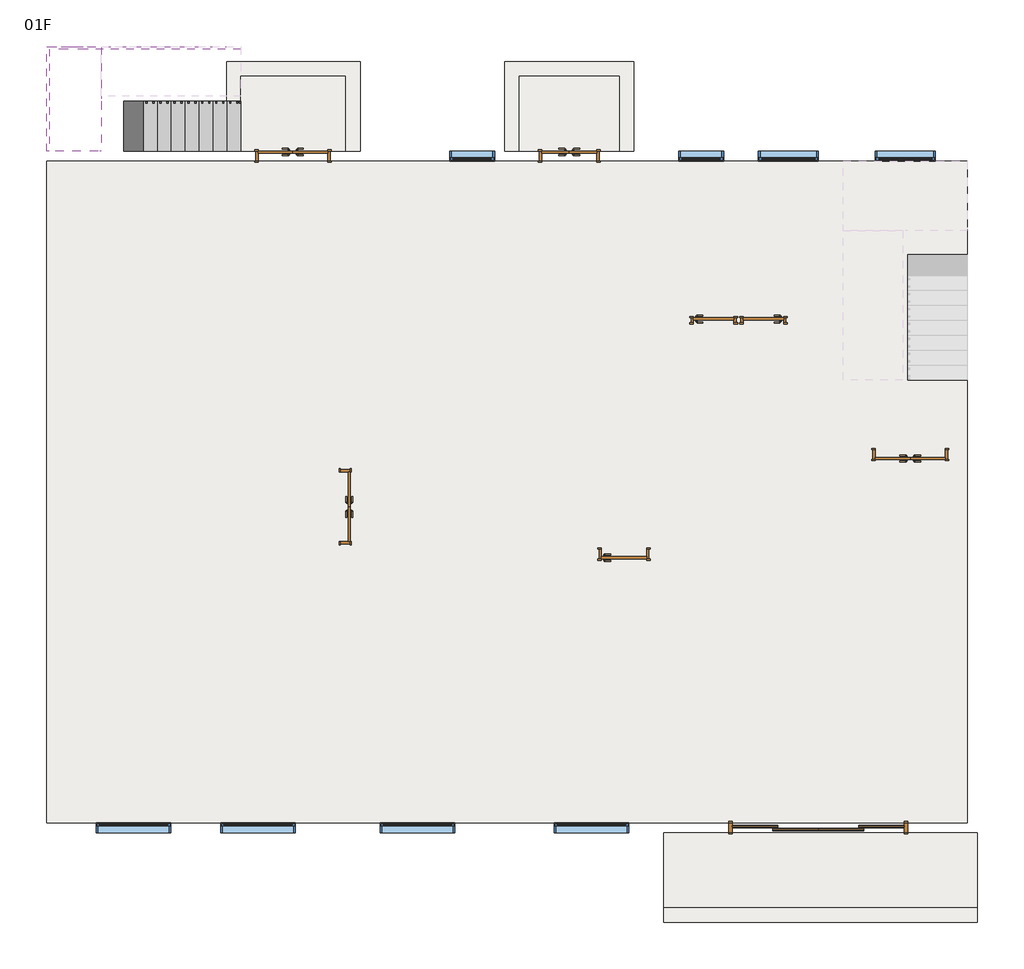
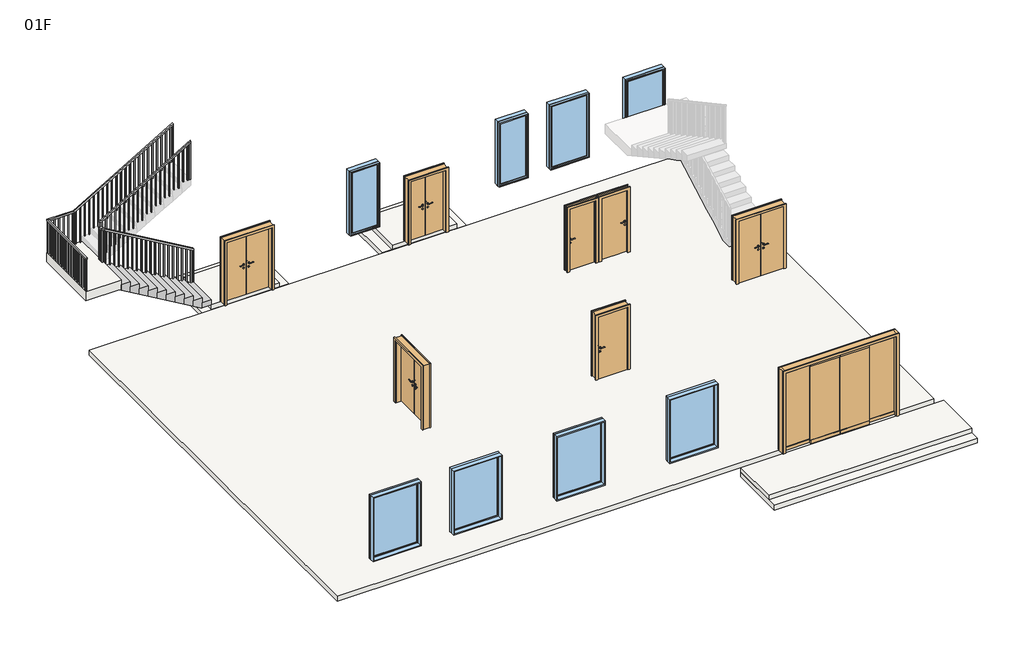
# One storey, part 1 of 2: 8 doors, 8 slabs, 8 windows, 2 railings, 1 stair flight.
"""IFC4 building model written with IfcOpenShell, lengths in millimetres."""

from ifc_helpers import new_model, si_unit, frame, origin, place, context, project, spatial, polyline, outline, extrude, faceted_brep, transform, mapped, element, save
from components import m1_8058bb6d, m2_692f9d9b, m3_ab7da2a0, m4_a67fd2dd, m4_12d08f6f, m5_627b48e9, c1_fb661159, c3_54e22efd, c5_e6b0c997

model = new_model("IFC4")

# Units and contexts
model_context = context("Model", 3, world=origin())
ifc_project = project(units=[si_unit("LENGTHUNIT", "METRE", prefix="MILLI")], contexts=[model_context])

# Site, building, storey
site = spatial("IfcSite", under=ifc_project)
building = spatial("IfcBuilding", under=site)
storey = spatial("IfcBuildingStorey", under=building, Name="01F", Elevation=0.0)

# Doors
placement = place(None, origin())
m1_shape = m1_8058bb6d(model_context)
element("IfcDoor", 1, ObjectType="四扇推拉门 3 : M1", at=placement, inside=storey, context=model_context, shape_type="MappedRepresentation", body=[
    mapped(m1_shape, transform((16550.0, 0.0, 0.0), x_axis=(-1.0, 0.0, 0.0), y_axis=(0.0, -1.0, 0.0), z_axis=(0.0, 0.0, 1.0))),
])
m2_shape = m2_692f9d9b(model_context)
element("IfcDoor", 2, ObjectType="双面嵌板木门 1 : M2", at=placement, inside=storey, context=model_context, shape_type="MappedRepresentation", body=[
    mapped(m2_shape, transform((4950.0, 13500.0, 0.0), x_axis=(1.0, 0.0, 0.0), y_axis=(0.0, 1.0, 0.0), z_axis=(0.0, 0.0, 1.0))),
])
element("IfcDoor", 3, ObjectType="双面嵌板木门 1 : M2", at=placement, inside=storey, context=model_context, shape_type="MappedRepresentation", body=[
    mapped(m2_shape, transform((6000.0, 6450.0, 0.0), x_axis=(0.0, -1.0, 0.0), y_axis=(1.0, 0.0, 0.0), z_axis=(0.0, 0.0, 1.0))),
])
element("IfcDoor", 4, ObjectType="双面嵌板木门 1 : M2", at=placement, inside=storey, context=model_context, shape_type="MappedRepresentation", body=[
    mapped(m2_shape, transform((17350.0, 7500.0, 0.0), x_axis=(-1.0, 0.0, 0.0), y_axis=(0.0, -1.0, 0.0), z_axis=(0.0, 0.0, 1.0))),
])
m3_shape = m3_ab7da2a0(model_context)
element("IfcDoor", 5, ObjectType="单嵌板木门 1 : M3", at=placement, inside=storey, context=model_context, shape_type="MappedRepresentation", body=[
    mapped(m3_shape, transform((11600.0, 5500.0, 0.0), x_axis=(1.0, 0.0, 0.0), y_axis=(0.0, 1.0, 0.0), z_axis=(0.0, 0.0, 1.0))),
])
m4_shape = m4_a67fd2dd(model_context)
element("IfcDoor", 6, ObjectType="单嵌板木门 1 : M4", at=placement, inside=storey, context=model_context, shape_type="MappedRepresentation", body=[
    mapped(m4_shape, transform((13400.0, 10200.0, 0.0), x_axis=(1.0, 0.0, 0.0), y_axis=(0.0, 1.0, 0.0), z_axis=(0.0, 0.0, 1.0))),
])
m4_2_shape = m4_12d08f6f(model_context)
element("IfcDoor", 7, ObjectType="单嵌板木门 1 : M4", at=placement, inside=storey, context=model_context, shape_type="MappedRepresentation", body=[
    mapped(m4_2_shape, transform((14400.0, 10200.0, 0.0), x_axis=(-1.0, 0.0, 0.0), y_axis=(0.0, -1.0, 0.0), z_axis=(0.0, 0.0, 1.0))),
])
m5_shape = m5_627b48e9(model_context)
element("IfcDoor", 8, ObjectType="双面嵌板木门 1 : M5", at=placement, inside=storey, context=model_context, shape_type="MappedRepresentation", body=[
    mapped(m5_shape, transform((10500.0, 13500.0, 0.0), x_axis=(1.0, 0.0, 0.0), y_axis=(0.0, 1.0, 0.0), z_axis=(0.0, 0.0, 1.0))),
])

# Railings
element("IfcRailing", 9, ObjectType="1100mm", at=placement, inside=storey, context=model_context, shape_type="SolidModel", body=[
    faceted_brep([(3900.0, 14549.6, 1263.6363636), (3900.0, 14549.6, 1205.7238957), (3900.0, 14599.6, 1205.7238957), (3900.0, 14599.6, 1263.6363636), (1174.6, 14549.6, 2856.4025974), (1124.6, 14549.6, 2827.7109087), (1124.6, 14599.6, 2827.7109087), (1174.6, 14599.6, 2856.4025974), (1174.6, 14549.6, 2900.0), (1124.6, 14549.6, 2850.0), (1124.6, 14599.6, 2850.0), (1174.6, 14599.6, 2900.0), (1049.6, 14549.6, 2900.0), (1049.6, 14549.6, 2850.0), (1099.6, 14599.6, 2850.0), (1099.6, 14599.6, 2900.0), (1049.6, 14674.6, 2900.0), (1049.6, 14674.6, 2850.0), (1099.6, 14674.6, 2850.0), (1099.6, 14674.6, 2900.0), (1049.6, 14700.4, 2900.0), (1099.6, 14700.4, 2900.0), (1099.6, 14750.4, 2850.0), (1049.6, 14750.4, 2850.0)], [[[0, 1, 2, 3]], [[1, 0, 4, 5]], [[2, 1, 5, 6]], [[3, 2, 6, 7]], [[0, 3, 7, 4]], [[5, 4, 8, 9]], [[6, 5, 9, 10]], [[7, 6, 10, 11]], [[4, 7, 11, 8]], [[9, 8, 12, 13]], [[10, 9, 13, 14]], [[11, 10, 14, 15]], [[8, 11, 15, 12]], [[13, 12, 16, 17]], [[14, 13, 17, 18]], [[15, 14, 18, 19]], [[12, 15, 19, 16]], [[20, 21, 22, 23]], [[17, 16, 20, 23]], [[18, 17, 23, 22]], [[19, 18, 22, 21]], [[16, 19, 21, 20]]]),
    faceted_brep([(1049.6, 14700.4, 2900.0), (1049.6, 14750.4, 2850.0), (1099.6, 14750.4, 2850.0), (1099.6, 14700.4, 2900.0), (1049.6, 14700.4, 3034.1818182), (1099.6, 14700.4, 3005.4901295), (1099.6, 14750.4, 3005.4901295), (1049.6, 14750.4, 3034.1818182)], [[[0, 1, 2, 3]], [[4, 5, 6, 7]], [[1, 0, 4, 7]], [[2, 1, 7, 6]], [[3, 2, 6, 5]], [[0, 3, 5, 4]]]),
    faceted_brep([(1049.6, 14750.4, 3034.1818182), (1099.6, 14750.4, 3005.4901295), (1099.6, 14700.4, 3005.4901295), (1049.6, 14700.4, 3034.1818182), (3900.0, 14750.4, 4700.0), (3900.0, 14700.4, 4700.0), (3900.0, 14700.4, 4642.0875321), (3900.0, 14750.4, 4642.0875321)], [[[0, 1, 2, 3]], [[4, 5, 6, 7]], [[1, 0, 4, 7]], [[2, 1, 7, 6]], [[3, 2, 6, 5]], [[0, 3, 5, 4]]]),
    extrude(outline(polyline([(4579.0290905, 3792.1), (3436.3636364, 3792.1), (3436.3636364, 3817.1), (4593.6394802, 3817.1), (4579.0290905, 3792.1)])), frame((0.0, 14712.9, 0.0), z_axis=(0.0, 1.0, 0.0), x_axis=(0.0, 0.0, 1.0)), (0.0, 0.0, 1.0), 25.0),
    extrude(outline(polyline([(4497.2109087, 3652.1), (3436.3636364, 3652.1), (3436.3636364, 3677.1), (4511.8212983, 3677.1), (4497.2109087, 3652.1)])), frame((0.0, 14712.9, 0.0), z_axis=(0.0, 1.0, 0.0), x_axis=(0.0, 0.0, 1.0)), (0.0, 0.0, 1.0), 25.0),
    extrude(outline(polyline([(4415.3927269, 3512.1), (3272.7272727, 3512.1), (3272.7272727, 3537.1), (4430.0031165, 3537.1), (4415.3927269, 3512.1)])), frame((0.0, 14712.9, 0.0), z_axis=(0.0, 1.0, 0.0), x_axis=(0.0, 0.0, 1.0)), (0.0, 0.0, 1.0), 25.0),
    extrude(outline(polyline([(4333.5745451, 3372.1), (3272.7272727, 3372.1), (3272.7272727, 3397.1), (4348.1849347, 3397.1), (4333.5745451, 3372.1)])), frame((0.0, 14712.9, 0.0), z_axis=(0.0, 1.0, 0.0), x_axis=(0.0, 0.0, 1.0)), (0.0, 0.0, 1.0), 25.0),
    extrude(outline(polyline([(4251.7563633, 3232.1), (3109.0909091, 3232.1), (3109.0909091, 3257.1), (4266.3667529, 3257.1), (4251.7563633, 3232.1)])), frame((0.0, 14712.9, 0.0), z_axis=(0.0, 1.0, 0.0), x_axis=(0.0, 0.0, 1.0)), (0.0, 0.0, 1.0), 25.0),
    extrude(outline(polyline([(4169.9381815, 3092.1), (3109.0909091, 3092.1), (3109.0909091, 3117.1), (4184.5485711, 3117.1), (4169.9381815, 3092.1)])), frame((0.0, 14712.9, 0.0), z_axis=(0.0, 1.0, 0.0), x_axis=(0.0, 0.0, 1.0)), (0.0, 0.0, 1.0), 25.0),
    extrude(outline(polyline([(4088.1199996, 2952.1), (2945.4545455, 2952.1), (2945.4545455, 2977.1), (4102.7303892, 2977.1), (4088.1199996, 2952.1)])), frame((0.0, 14712.9, 0.0), z_axis=(0.0, 1.0, 0.0), x_axis=(0.0, 0.0, 1.0)), (0.0, 0.0, 1.0), 25.0),
    extrude(outline(polyline([(4006.3018178, 2812.1), (2945.4545455, 2812.1), (2945.4545455, 2837.1), (4020.9122074, 2837.1), (4006.3018178, 2812.1)])), frame((0.0, 14712.9, 0.0), z_axis=(0.0, 1.0, 0.0), x_axis=(0.0, 0.0, 1.0)), (0.0, 0.0, 1.0), 25.0),
    extrude(outline(polyline([(3924.483636, 2672.1), (2781.8181818, 2672.1), (2781.8181818, 2697.1), (3939.0940256, 2697.1), (3924.483636, 2672.1)])), frame((0.0, 14712.9, 0.0), z_axis=(0.0, 1.0, 0.0), x_axis=(0.0, 0.0, 1.0)), (0.0, 0.0, 1.0), 25.0),
    extrude(outline(polyline([(3842.6654542, 2532.1), (2781.8181818, 2532.1), (2781.8181818, 2557.1), (3857.2758438, 2557.1), (3842.6654542, 2532.1)])), frame((0.0, 14712.9, 0.0), z_axis=(0.0, 1.0, 0.0), x_axis=(0.0, 0.0, 1.0)), (0.0, 0.0, 1.0), 25.0),
    extrude(outline(polyline([(3760.8472724, 2392.1), (2618.1818182, 2392.1), (2618.1818182, 2417.1), (3775.457662, 2417.1), (3760.8472724, 2392.1)])), frame((0.0, 14712.9, 0.0), z_axis=(0.0, 1.0, 0.0), x_axis=(0.0, 0.0, 1.0)), (0.0, 0.0, 1.0), 25.0),
    extrude(outline(polyline([(3679.0290905, 2252.1), (2618.1818182, 2252.1), (2618.1818182, 2277.1), (3693.6394802, 2277.1), (3679.0290905, 2252.1)])), frame((0.0, 14712.9, 0.0), z_axis=(0.0, 1.0, 0.0), x_axis=(0.0, 0.0, 1.0)), (0.0, 0.0, 1.0), 25.0),
    extrude(outline(polyline([(3597.2109087, 2112.1), (2454.5454545, 2112.1), (2454.5454545, 2137.1), (3611.8212983, 2137.1), (3597.2109087, 2112.1)])), frame((0.0, 14712.9, 0.0), z_axis=(0.0, 1.0, 0.0), x_axis=(0.0, 0.0, 1.0)), (0.0, 0.0, 1.0), 25.0),
    extrude(outline(polyline([(3515.3927269, 1972.1), (2454.5454545, 1972.1), (2454.5454545, 1997.1), (3530.0031165, 1997.1), (3515.3927269, 1972.1)])), frame((0.0, 14712.9, 0.0), z_axis=(0.0, 1.0, 0.0), x_axis=(0.0, 0.0, 1.0)), (0.0, 0.0, 1.0), 25.0),
    extrude(outline(polyline([(3433.5745451, 1832.1), (2290.9090909, 1832.1), (2290.9090909, 1857.1), (3448.1849347, 1857.1), (3433.5745451, 1832.1)])), frame((0.0, 14712.9, 0.0), z_axis=(0.0, 1.0, 0.0), x_axis=(0.0, 0.0, 1.0)), (0.0, 0.0, 1.0), 25.0),
    extrude(outline(polyline([(3351.7563633, 1692.1), (2290.9090909, 1692.1), (2290.9090909, 1717.1), (3366.3667529, 1717.1), (3351.7563633, 1692.1)])), frame((0.0, 14712.9, 0.0), z_axis=(0.0, 1.0, 0.0), x_axis=(0.0, 0.0, 1.0)), (0.0, 0.0, 1.0), 25.0),
    extrude(outline(polyline([(3269.9381815, 1552.1), (2127.2727273, 1552.1), (2127.2727273, 1577.1), (3284.5485711, 1577.1), (3269.9381815, 1552.1)])), frame((0.0, 14712.9, 0.0), z_axis=(0.0, 1.0, 0.0), x_axis=(0.0, 0.0, 1.0)), (0.0, 0.0, 1.0), 25.0),
    extrude(outline(polyline([(3188.1199996, 1412.1), (2127.2727273, 1412.1), (2127.2727273, 1437.1), (3202.7303892, 1437.1), (3188.1199996, 1412.1)])), frame((0.0, 14712.9, 0.0), z_axis=(0.0, 1.0, 0.0), x_axis=(0.0, 0.0, 1.0)), (0.0, 0.0, 1.0), 25.0),
    extrude(outline(polyline([(3106.3018178, 1272.1), (1963.6363636, 1272.1), (1963.6363636, 1297.1), (3120.9122074, 1297.1), (3106.3018178, 1272.1)])), frame((0.0, 14712.9, 0.0), z_axis=(0.0, 1.0, 0.0), x_axis=(0.0, 0.0, 1.0)), (0.0, 0.0, 1.0), 25.0),
    extrude(outline(polyline([(3024.483636, 1132.1), (1963.6363636, 1132.1), (1963.6363636, 1157.1), (3039.0940256, 1157.1), (3024.483636, 1132.1)])), frame((0.0, 14712.9, 0.0), z_axis=(0.0, 1.0, 0.0), x_axis=(0.0, 0.0, 1.0)), (0.0, 0.0, 1.0), 25.0),
    extrude(outline(polyline([(1087.1, 14632.1), (1062.1, 14632.1), (1062.1, 14657.1), (1087.1, 14657.1), (1087.1, 14632.1)])), frame((0.0, 0.0, 1800.0), z_axis=(0.0, 0.0, 1.0), x_axis=(1.0, 0.0, 0.0)), (0.0, 0.0, 1.0), 1050.0),
    extrude(outline(polyline([(1636.3636364, 1182.5), (2793.8732464, 1182.5), (2808.483636, 1157.5), (1636.3636364, 1157.5), (1636.3636364, 1182.5)])), frame((0.0, 14562.1, 0.0), z_axis=(0.0, 1.0, 0.0), x_axis=(0.0, 0.0, 1.0)), (0.0, 0.0, 1.0), 25.0),
    extrude(outline(polyline([(1636.3636364, 1322.5), (2712.0550646, 1322.5), (2726.6654542, 1297.5), (1636.3636364, 1297.5), (1636.3636364, 1322.5)])), frame((0.0, 14562.1, 0.0), z_axis=(0.0, 1.0, 0.0), x_axis=(0.0, 0.0, 1.0)), (0.0, 0.0, 1.0), 25.0),
    extrude(outline(polyline([(1472.7272727, 1462.5), (2630.2368827, 1462.5), (2644.8472724, 1437.5), (1472.7272727, 1437.5), (1472.7272727, 1462.5)])), frame((0.0, 14562.1, 0.0), z_axis=(0.0, 1.0, 0.0), x_axis=(0.0, 0.0, 1.0)), (0.0, 0.0, 1.0), 25.0),
    extrude(outline(polyline([(1472.7272727, 1602.5), (2548.4187009, 1602.5), (2563.0290905, 1577.5), (1472.7272727, 1577.5), (1472.7272727, 1602.5)])), frame((0.0, 14562.1, 0.0), z_axis=(0.0, 1.0, 0.0), x_axis=(0.0, 0.0, 1.0)), (0.0, 0.0, 1.0), 25.0),
    extrude(outline(polyline([(1309.0909091, 1742.5), (2466.6005191, 1742.5), (2481.2109087, 1717.5), (1309.0909091, 1717.5), (1309.0909091, 1742.5)])), frame((0.0, 14562.1, 0.0), z_axis=(0.0, 1.0, 0.0), x_axis=(0.0, 0.0, 1.0)), (0.0, 0.0, 1.0), 25.0),
    extrude(outline(polyline([(1309.0909091, 1882.5), (2384.7823373, 1882.5), (2399.3927269, 1857.5), (1309.0909091, 1857.5), (1309.0909091, 1882.5)])), frame((0.0, 14562.1, 0.0), z_axis=(0.0, 1.0, 0.0), x_axis=(0.0, 0.0, 1.0)), (0.0, 0.0, 1.0), 25.0),
    extrude(outline(polyline([(1145.4545455, 2022.5), (2302.9641555, 2022.5), (2317.5745451, 1997.5), (1145.4545455, 1997.5), (1145.4545455, 2022.5)])), frame((0.0, 14562.1, 0.0), z_axis=(0.0, 1.0, 0.0), x_axis=(0.0, 0.0, 1.0)), (0.0, 0.0, 1.0), 25.0),
    extrude(outline(polyline([(1145.4545455, 2162.5), (2221.1459737, 2162.5), (2235.7563633, 2137.5), (1145.4545455, 2137.5), (1145.4545455, 2162.5)])), frame((0.0, 14562.1, 0.0), z_axis=(0.0, 1.0, 0.0), x_axis=(0.0, 0.0, 1.0)), (0.0, 0.0, 1.0), 25.0),
    extrude(outline(polyline([(981.8181818, 2302.5), (2139.3277918, 2302.5), (2153.9381815, 2277.5), (981.8181818, 2277.5), (981.8181818, 2302.5)])), frame((0.0, 14562.1, 0.0), z_axis=(0.0, 1.0, 0.0), x_axis=(0.0, 0.0, 1.0)), (0.0, 0.0, 1.0), 25.0),
    extrude(outline(polyline([(981.8181818, 2442.5), (2057.50961, 2442.5), (2072.1199996, 2417.5), (981.8181818, 2417.5), (981.8181818, 2442.5)])), frame((0.0, 14562.1, 0.0), z_axis=(0.0, 1.0, 0.0), x_axis=(0.0, 0.0, 1.0)), (0.0, 0.0, 1.0), 25.0),
    extrude(outline(polyline([(818.1818182, 2582.5), (1975.6914282, 2582.5), (1990.3018178, 2557.5), (818.1818182, 2557.5), (818.1818182, 2582.5)])), frame((0.0, 14562.1, 0.0), z_axis=(0.0, 1.0, 0.0), x_axis=(0.0, 0.0, 1.0)), (0.0, 0.0, 1.0), 25.0),
    extrude(outline(polyline([(818.1818182, 2722.5), (1893.8732464, 2722.5), (1908.483636, 2697.5), (818.1818182, 2697.5), (818.1818182, 2722.5)])), frame((0.0, 14562.1, 0.0), z_axis=(0.0, 1.0, 0.0), x_axis=(0.0, 0.0, 1.0)), (0.0, 0.0, 1.0), 25.0),
    extrude(outline(polyline([(654.5454545, 2862.5), (1812.0550646, 2862.5), (1826.6654542, 2837.5), (654.5454545, 2837.5), (654.5454545, 2862.5)])), frame((0.0, 14562.1, 0.0), z_axis=(0.0, 1.0, 0.0), x_axis=(0.0, 0.0, 1.0)), (0.0, 0.0, 1.0), 25.0),
    extrude(outline(polyline([(654.5454545, 3002.5), (1730.2368827, 3002.5), (1744.8472724, 2977.5), (654.5454545, 2977.5), (654.5454545, 3002.5)])), frame((0.0, 14562.1, 0.0), z_axis=(0.0, 1.0, 0.0), x_axis=(0.0, 0.0, 1.0)), (0.0, 0.0, 1.0), 25.0),
    extrude(outline(polyline([(490.9090909, 3142.5), (1648.4187009, 3142.5), (1663.0290905, 3117.5), (490.9090909, 3117.5), (490.9090909, 3142.5)])), frame((0.0, 14562.1, 0.0), z_axis=(0.0, 1.0, 0.0), x_axis=(0.0, 0.0, 1.0)), (0.0, 0.0, 1.0), 25.0),
    extrude(outline(polyline([(490.9090909, 3282.5), (1566.6005191, 3282.5), (1581.2109087, 3257.5), (490.9090909, 3257.5), (490.9090909, 3282.5)])), frame((0.0, 14562.1, 0.0), z_axis=(0.0, 1.0, 0.0), x_axis=(0.0, 0.0, 1.0)), (0.0, 0.0, 1.0), 25.0),
    extrude(outline(polyline([(327.2727273, 3422.5), (1484.7823373, 3422.5), (1499.3927269, 3397.5), (327.2727273, 3397.5), (327.2727273, 3422.5)])), frame((0.0, 14562.1, 0.0), z_axis=(0.0, 1.0, 0.0), x_axis=(0.0, 0.0, 1.0)), (0.0, 0.0, 1.0), 25.0),
    extrude(outline(polyline([(327.2727273, 3562.5), (1402.9641555, 3562.5), (1417.5745451, 3537.5), (327.2727273, 3537.5), (327.2727273, 3562.5)])), frame((0.0, 14562.1, 0.0), z_axis=(0.0, 1.0, 0.0), x_axis=(0.0, 0.0, 1.0)), (0.0, 0.0, 1.0), 25.0),
    extrude(outline(polyline([(163.6363636, 3702.5), (1321.1459737, 3702.5), (1335.7563633, 3677.5), (163.6363636, 3677.5), (163.6363636, 3702.5)])), frame((0.0, 14562.1, 0.0), z_axis=(0.0, 1.0, 0.0), x_axis=(0.0, 0.0, 1.0)), (0.0, 0.0, 1.0), 25.0),
    extrude(outline(polyline([(163.6363636, 3842.5), (1239.3277918, 3842.5), (1253.9381815, 3817.5), (163.6363636, 3817.5), (163.6363636, 3842.5)])), frame((0.0, 14562.1, 0.0), z_axis=(0.0, 1.0, 0.0), x_axis=(0.0, 0.0, 1.0)), (0.0, 0.0, 1.0), 25.0),
    extrude(outline(polyline([(1062.1, 14712.9), (1062.1, 14737.9), (1087.1, 14737.9), (1087.1, 14712.9), (1062.1, 14712.9)])), frame((0.0, 0.0, 1800.0), z_axis=(0.0, 0.0, 1.0), x_axis=(1.0, 0.0, 0.0)), (0.0, 0.0, 1.0), 1050.0),
    extrude(outline(polyline([(1087.1, 14587.1), (1087.1, 14562.1), (1062.1, 14562.1), (1062.1, 14587.1), (1087.1, 14587.1)])), frame((0.0, 0.0, 1800.0), z_axis=(0.0, 0.0, 1.0), x_axis=(1.0, 0.0, 0.0)), (0.0, 0.0, 1.0), 1050.0),
    extrude(outline(polyline([(1112.5, 14587.1), (1112.5, 14562.1), (1087.5, 14562.1), (1087.5, 14587.1), (1112.5, 14587.1)])), frame((0.0, 0.0, 1800.0), z_axis=(0.0, 0.0, 1.0), x_axis=(1.0, 0.0, 0.0)), (0.0, 0.0, 1.0), 1050.0),
    extrude(outline(polyline([(4627.4771425, 3875.0), (3436.3636364, 3875.0), (3436.3636364, 3900.0), (4642.0875321, 3900.0), (4627.4771425, 3875.0)])), frame((0.0, 14712.9, 0.0), z_axis=(0.0, 1.0, 0.0), x_axis=(0.0, 0.0, 1.0)), (0.0, 0.0, 1.0), 25.0),
    extrude(outline(polyline([(163.6363636, 3900.0), (1205.7238957, 3900.0), (1220.3342853, 3875.0), (163.6363636, 3875.0), (163.6363636, 3900.0)])), frame((0.0, 14562.1, 0.0), z_axis=(0.0, 1.0, 0.0), x_axis=(0.0, 0.0, 1.0)), (0.0, 0.0, 1.0), 25.0),
])
element("IfcRailing", 10, ObjectType="1100mm", at=placement, inside=storey, context=model_context, shape_type="SolidModel", body=[
    faceted_brep([(0.4, 13600.0, 2900.0), (0.4, 13600.0, 2850.0), (50.4, 13600.0, 2850.0), (50.4, 13600.0, 2900.0), (0.4, 15699.6, 2900.0), (0.4, 15699.6, 2850.0), (50.4, 15649.6, 2850.0), (50.4, 15649.6, 2900.0), (820.0, 15699.6, 2900.0), (833.5391117, 15699.6, 2850.0), (833.5391117, 15649.6, 2850.0), (820.0, 15649.6, 2900.0), (3900.0, 15699.6, 4700.0), (3900.0, 15649.6, 4700.0), (3900.0, 15649.6, 4642.0875321), (3900.0, 15699.6, 4642.0875321)], [[[0, 1, 2, 3]], [[1, 0, 4, 5]], [[2, 1, 5, 6]], [[3, 2, 6, 7]], [[0, 3, 7, 4]], [[5, 4, 8, 9]], [[6, 5, 9, 10]], [[7, 6, 10, 11]], [[4, 7, 11, 8]], [[12, 13, 14, 15]], [[9, 8, 12, 15]], [[10, 9, 15, 14]], [[11, 10, 14, 13]], [[8, 11, 13, 12]]]),
    extrude(outline(polyline([(3436.3636364, 3817.5), (3436.3636364, 3842.5), (4608.483636, 3842.5), (4593.8732464, 3817.5), (3436.3636364, 3817.5)])), frame((0.0, 15662.1, 0.0), z_axis=(0.0, 1.0, 0.0), x_axis=(0.0, 0.0, 1.0)), (0.0, 0.0, 1.0), 25.0),
    extrude(outline(polyline([(3436.3636364, 3677.5), (3436.3636364, 3702.5), (4526.6654542, 3702.5), (4512.0550646, 3677.5), (3436.3636364, 3677.5)])), frame((0.0, 15662.1, 0.0), z_axis=(0.0, 1.0, 0.0), x_axis=(0.0, 0.0, 1.0)), (0.0, 0.0, 1.0), 25.0),
    extrude(outline(polyline([(3272.7272727, 3537.5), (3272.7272727, 3562.5), (4444.8472724, 3562.5), (4430.2368827, 3537.5), (3272.7272727, 3537.5)])), frame((0.0, 15662.1, 0.0), z_axis=(0.0, 1.0, 0.0), x_axis=(0.0, 0.0, 1.0)), (0.0, 0.0, 1.0), 25.0),
    extrude(outline(polyline([(3272.7272727, 3397.5), (3272.7272727, 3422.5), (4363.0290905, 3422.5), (4348.4187009, 3397.5), (3272.7272727, 3397.5)])), frame((0.0, 15662.1, 0.0), z_axis=(0.0, 1.0, 0.0), x_axis=(0.0, 0.0, 1.0)), (0.0, 0.0, 1.0), 25.0),
    extrude(outline(polyline([(3109.0909091, 3257.5), (3109.0909091, 3282.5), (4281.2109087, 3282.5), (4266.6005191, 3257.5), (3109.0909091, 3257.5)])), frame((0.0, 15662.1, 0.0), z_axis=(0.0, 1.0, 0.0), x_axis=(0.0, 0.0, 1.0)), (0.0, 0.0, 1.0), 25.0),
    extrude(outline(polyline([(3109.0909091, 3117.5), (3109.0909091, 3142.5), (4199.3927269, 3142.5), (4184.7823373, 3117.5), (3109.0909091, 3117.5)])), frame((0.0, 15662.1, 0.0), z_axis=(0.0, 1.0, 0.0), x_axis=(0.0, 0.0, 1.0)), (0.0, 0.0, 1.0), 25.0),
    extrude(outline(polyline([(2945.4545455, 2977.5), (2945.4545455, 3002.5), (4117.5745451, 3002.5), (4102.9641555, 2977.5), (2945.4545455, 2977.5)])), frame((0.0, 15662.1, 0.0), z_axis=(0.0, 1.0, 0.0), x_axis=(0.0, 0.0, 1.0)), (0.0, 0.0, 1.0), 25.0),
    extrude(outline(polyline([(2945.4545455, 2837.5), (2945.4545455, 2862.5), (4035.7563633, 2862.5), (4021.1459737, 2837.5), (2945.4545455, 2837.5)])), frame((0.0, 15662.1, 0.0), z_axis=(0.0, 1.0, 0.0), x_axis=(0.0, 0.0, 1.0)), (0.0, 0.0, 1.0), 25.0),
    extrude(outline(polyline([(2781.8181818, 2697.5), (2781.8181818, 2722.5), (3953.9381815, 2722.5), (3939.3277918, 2697.5), (2781.8181818, 2697.5)])), frame((0.0, 15662.1, 0.0), z_axis=(0.0, 1.0, 0.0), x_axis=(0.0, 0.0, 1.0)), (0.0, 0.0, 1.0), 25.0),
    extrude(outline(polyline([(2781.8181818, 2557.5), (2781.8181818, 2582.5), (3872.1199996, 2582.5), (3857.50961, 2557.5), (2781.8181818, 2557.5)])), frame((0.0, 15662.1, 0.0), z_axis=(0.0, 1.0, 0.0), x_axis=(0.0, 0.0, 1.0)), (0.0, 0.0, 1.0), 25.0),
    extrude(outline(polyline([(2618.1818182, 2417.5), (2618.1818182, 2442.5), (3790.3018178, 2442.5), (3775.6914282, 2417.5), (2618.1818182, 2417.5)])), frame((0.0, 15662.1, 0.0), z_axis=(0.0, 1.0, 0.0), x_axis=(0.0, 0.0, 1.0)), (0.0, 0.0, 1.0), 25.0),
    extrude(outline(polyline([(2618.1818182, 2277.5), (2618.1818182, 2302.5), (3708.483636, 2302.5), (3693.8732464, 2277.5), (2618.1818182, 2277.5)])), frame((0.0, 15662.1, 0.0), z_axis=(0.0, 1.0, 0.0), x_axis=(0.0, 0.0, 1.0)), (0.0, 0.0, 1.0), 25.0),
    extrude(outline(polyline([(2454.5454545, 2137.5), (2454.5454545, 2162.5), (3626.6654542, 2162.5), (3612.0550646, 2137.5), (2454.5454545, 2137.5)])), frame((0.0, 15662.1, 0.0), z_axis=(0.0, 1.0, 0.0), x_axis=(0.0, 0.0, 1.0)), (0.0, 0.0, 1.0), 25.0),
    extrude(outline(polyline([(2454.5454545, 1997.5), (2454.5454545, 2022.5), (3544.8472724, 2022.5), (3530.2368827, 1997.5), (2454.5454545, 1997.5)])), frame((0.0, 15662.1, 0.0), z_axis=(0.0, 1.0, 0.0), x_axis=(0.0, 0.0, 1.0)), (0.0, 0.0, 1.0), 25.0),
    extrude(outline(polyline([(2290.9090909, 1857.5), (2290.9090909, 1882.5), (3463.0290905, 1882.5), (3448.4187009, 1857.5), (2290.9090909, 1857.5)])), frame((0.0, 15662.1, 0.0), z_axis=(0.0, 1.0, 0.0), x_axis=(0.0, 0.0, 1.0)), (0.0, 0.0, 1.0), 25.0),
    extrude(outline(polyline([(2290.9090909, 1717.5), (2290.9090909, 1742.5), (3381.2109087, 1742.5), (3366.6005191, 1717.5), (2290.9090909, 1717.5)])), frame((0.0, 15662.1, 0.0), z_axis=(0.0, 1.0, 0.0), x_axis=(0.0, 0.0, 1.0)), (0.0, 0.0, 1.0), 25.0),
    extrude(outline(polyline([(2127.2727273, 1577.5), (2127.2727273, 1602.5), (3299.3927269, 1602.5), (3284.7823373, 1577.5), (2127.2727273, 1577.5)])), frame((0.0, 15662.1, 0.0), z_axis=(0.0, 1.0, 0.0), x_axis=(0.0, 0.0, 1.0)), (0.0, 0.0, 1.0), 25.0),
    extrude(outline(polyline([(2127.2727273, 1437.5), (2127.2727273, 1462.5), (3217.5745451, 1462.5), (3202.9641555, 1437.5), (2127.2727273, 1437.5)])), frame((0.0, 15662.1, 0.0), z_axis=(0.0, 1.0, 0.0), x_axis=(0.0, 0.0, 1.0)), (0.0, 0.0, 1.0), 25.0),
    extrude(outline(polyline([(1963.6363636, 1297.5), (1963.6363636, 1322.5), (3135.7563633, 1322.5), (3121.1459737, 1297.5), (1963.6363636, 1297.5)])), frame((0.0, 15662.1, 0.0), z_axis=(0.0, 1.0, 0.0), x_axis=(0.0, 0.0, 1.0)), (0.0, 0.0, 1.0), 25.0),
    extrude(outline(polyline([(1963.6363636, 1157.5), (1963.6363636, 1182.5), (3053.9381815, 1182.5), (3039.3277918, 1157.5), (1963.6363636, 1157.5)])), frame((0.0, 15662.1, 0.0), z_axis=(0.0, 1.0, 0.0), x_axis=(0.0, 0.0, 1.0)), (0.0, 0.0, 1.0), 25.0),
    extrude(outline(polyline([(1800.0, 1017.5), (1800.0, 1042.5), (2972.1199996, 1042.5), (2957.50961, 1017.5), (1800.0, 1017.5)])), frame((0.0, 15662.1, 0.0), z_axis=(0.0, 1.0, 0.0), x_axis=(0.0, 0.0, 1.0)), (0.0, 0.0, 1.0), 25.0),
    extrude(outline(polyline([(1800.0, 877.5), (1800.0, 902.5), (2890.3018178, 902.5), (2875.6914282, 877.5), (1800.0, 877.5)])), frame((0.0, 15662.1, 0.0), z_axis=(0.0, 1.0, 0.0), x_axis=(0.0, 0.0, 1.0)), (0.0, 0.0, 1.0), 25.0),
    extrude(outline(polyline([(782.9, 15687.1), (807.9, 15687.1), (807.9, 15662.1), (782.9, 15662.1), (782.9, 15687.1)])), frame((0.0, 0.0, 1800.0), z_axis=(0.0, 0.0, 1.0), x_axis=(1.0, 0.0, 0.0)), (0.0, 0.0, 1.0), 1050.0),
    extrude(outline(polyline([(642.9, 15687.1), (667.9, 15687.1), (667.9, 15662.1), (642.9, 15662.1), (642.9, 15687.1)])), frame((0.0, 0.0, 1800.0), z_axis=(0.0, 0.0, 1.0), x_axis=(1.0, 0.0, 0.0)), (0.0, 0.0, 1.0), 1050.0),
    extrude(outline(polyline([(502.9, 15687.1), (527.9, 15687.1), (527.9, 15662.1), (502.9, 15662.1), (502.9, 15687.1)])), frame((0.0, 0.0, 1800.0), z_axis=(0.0, 0.0, 1.0), x_axis=(1.0, 0.0, 0.0)), (0.0, 0.0, 1.0), 1050.0),
    extrude(outline(polyline([(362.9, 15687.1), (387.9, 15687.1), (387.9, 15662.1), (362.9, 15662.1), (362.9, 15687.1)])), frame((0.0, 0.0, 1800.0), z_axis=(0.0, 0.0, 1.0), x_axis=(1.0, 0.0, 0.0)), (0.0, 0.0, 1.0), 1050.0),
    extrude(outline(polyline([(222.9, 15687.1), (247.9, 15687.1), (247.9, 15662.1), (222.9, 15662.1), (222.9, 15687.1)])), frame((0.0, 0.0, 1800.0), z_axis=(0.0, 0.0, 1.0), x_axis=(1.0, 0.0, 0.0)), (0.0, 0.0, 1.0), 1050.0),
    extrude(outline(polyline([(82.9, 15687.1), (107.9, 15687.1), (107.9, 15662.1), (82.9, 15662.1), (82.9, 15687.1)])), frame((0.0, 0.0, 1800.0), z_axis=(0.0, 0.0, 1.0), x_axis=(1.0, 0.0, 0.0)), (0.0, 0.0, 1.0), 1050.0),
    extrude(outline(polyline([(12.9, 15617.5), (12.9, 15642.5), (37.9, 15642.5), (37.9, 15617.5), (12.9, 15617.5)])), frame((0.0, 0.0, 1800.0), z_axis=(0.0, 0.0, 1.0), x_axis=(1.0, 0.0, 0.0)), (0.0, 0.0, 1.0), 1050.0),
    extrude(outline(polyline([(12.9, 15477.5), (12.9, 15502.5), (37.9, 15502.5), (37.9, 15477.5), (12.9, 15477.5)])), frame((0.0, 0.0, 1800.0), z_axis=(0.0, 0.0, 1.0), x_axis=(1.0, 0.0, 0.0)), (0.0, 0.0, 1.0), 1050.0),
    extrude(outline(polyline([(12.9, 15337.5), (12.9, 15362.5), (37.9, 15362.5), (37.9, 15337.5), (12.9, 15337.5)])), frame((0.0, 0.0, 1800.0), z_axis=(0.0, 0.0, 1.0), x_axis=(1.0, 0.0, 0.0)), (0.0, 0.0, 1.0), 1050.0),
    extrude(outline(polyline([(12.9, 15197.5), (12.9, 15222.5), (37.9, 15222.5), (37.9, 15197.5), (12.9, 15197.5)])), frame((0.0, 0.0, 1800.0), z_axis=(0.0, 0.0, 1.0), x_axis=(1.0, 0.0, 0.0)), (0.0, 0.0, 1.0), 1050.0),
    extrude(outline(polyline([(12.9, 15057.5), (12.9, 15082.5), (37.9, 15082.5), (37.9, 15057.5), (12.9, 15057.5)])), frame((0.0, 0.0, 1800.0), z_axis=(0.0, 0.0, 1.0), x_axis=(1.0, 0.0, 0.0)), (0.0, 0.0, 1.0), 1050.0),
    extrude(outline(polyline([(12.9, 14917.5), (12.9, 14942.5), (37.9, 14942.5), (37.9, 14917.5), (12.9, 14917.5)])), frame((0.0, 0.0, 1800.0), z_axis=(0.0, 0.0, 1.0), x_axis=(1.0, 0.0, 0.0)), (0.0, 0.0, 1.0), 1050.0),
    extrude(outline(polyline([(12.9, 14777.5), (12.9, 14802.5), (37.9, 14802.5), (37.9, 14777.5), (12.9, 14777.5)])), frame((0.0, 0.0, 1800.0), z_axis=(0.0, 0.0, 1.0), x_axis=(1.0, 0.0, 0.0)), (0.0, 0.0, 1.0), 1050.0),
    extrude(outline(polyline([(12.9, 14637.5), (12.9, 14662.5), (37.9, 14662.5), (37.9, 14637.5), (12.9, 14637.5)])), frame((0.0, 0.0, 1800.0), z_axis=(0.0, 0.0, 1.0), x_axis=(1.0, 0.0, 0.0)), (0.0, 0.0, 1.0), 1050.0),
    extrude(outline(polyline([(12.9, 14497.5), (12.9, 14522.5), (37.9, 14522.5), (37.9, 14497.5), (12.9, 14497.5)])), frame((0.0, 0.0, 1800.0), z_axis=(0.0, 0.0, 1.0), x_axis=(1.0, 0.0, 0.0)), (0.0, 0.0, 1.0), 1050.0),
    extrude(outline(polyline([(12.9, 14357.5), (12.9, 14382.5), (37.9, 14382.5), (37.9, 14357.5), (12.9, 14357.5)])), frame((0.0, 0.0, 1800.0), z_axis=(0.0, 0.0, 1.0), x_axis=(1.0, 0.0, 0.0)), (0.0, 0.0, 1.0), 1050.0),
    extrude(outline(polyline([(12.9, 14217.5), (12.9, 14242.5), (37.9, 14242.5), (37.9, 14217.5), (12.9, 14217.5)])), frame((0.0, 0.0, 1800.0), z_axis=(0.0, 0.0, 1.0), x_axis=(1.0, 0.0, 0.0)), (0.0, 0.0, 1.0), 1050.0),
    extrude(outline(polyline([(12.9, 14077.5), (12.9, 14102.5), (37.9, 14102.5), (37.9, 14077.5), (12.9, 14077.5)])), frame((0.0, 0.0, 1800.0), z_axis=(0.0, 0.0, 1.0), x_axis=(1.0, 0.0, 0.0)), (0.0, 0.0, 1.0), 1050.0),
    extrude(outline(polyline([(12.9, 13937.5), (12.9, 13962.5), (37.9, 13962.5), (37.9, 13937.5), (12.9, 13937.5)])), frame((0.0, 0.0, 1800.0), z_axis=(0.0, 0.0, 1.0), x_axis=(1.0, 0.0, 0.0)), (0.0, 0.0, 1.0), 1050.0),
    extrude(outline(polyline([(12.9, 13797.5), (12.9, 13822.5), (37.9, 13822.5), (37.9, 13797.5), (12.9, 13797.5)])), frame((0.0, 0.0, 1800.0), z_axis=(0.0, 0.0, 1.0), x_axis=(1.0, 0.0, 0.0)), (0.0, 0.0, 1.0), 1050.0),
    extrude(outline(polyline([(12.9, 13657.5), (12.9, 13682.5), (37.9, 13682.5), (37.9, 13657.5), (12.9, 13657.5)])), frame((0.0, 0.0, 1800.0), z_axis=(0.0, 0.0, 1.0), x_axis=(1.0, 0.0, 0.0)), (0.0, 0.0, 1.0), 1050.0),
    extrude(outline(polyline([(807.5, 15687.1), (832.5, 15687.1), (832.5, 15662.1), (807.5, 15662.1), (807.5, 15687.1)])), frame((0.0, 0.0, 1800.0), z_axis=(0.0, 0.0, 1.0), x_axis=(1.0, 0.0, 0.0)), (0.0, 0.0, 1.0), 1050.0),
    extrude(outline(polyline([(12.9, 15662.1), (12.9, 15687.1), (37.9, 15687.1), (37.9, 15662.1), (12.9, 15662.1)])), frame((0.0, 0.0, 1800.0), z_axis=(0.0, 0.0, 1.0), x_axis=(1.0, 0.0, 0.0)), (0.0, 0.0, 1.0), 1050.0),
    extrude(outline(polyline([(3436.3636364, 3875.0), (3436.3636364, 3900.0), (4642.0875321, 3900.0), (4627.4771425, 3875.0), (3436.3636364, 3875.0)])), frame((0.0, 15662.1, 0.0), z_axis=(0.0, 1.0, 0.0), x_axis=(0.0, 0.0, 1.0)), (0.0, 0.0, 1.0), 25.0),
    extrude(outline(polyline([(12.9, 13600.0), (12.9, 13625.0), (37.9, 13625.0), (37.9, 13600.0), (12.9, 13600.0)])), frame((0.0, 0.0, 1800.0), z_axis=(0.0, 0.0, 1.0), x_axis=(1.0, 0.0, 0.0)), (0.0, 0.0, 1.0), 1050.0),
])

# Slabs
element("IfcSlab", 11, ObjectType="常规 - 300mm", at=placement, inside=storey, context=model_context, shape_type="SweptSolid", body=[
    extrude(outline(polyline([(18500.0, 13400.0), (18500.0, 100.0), (0.0, 100.0), (0.0, 13400.0), (18500.0, 13400.0)])), frame((0.0, 0.0, -165.0), z_axis=(0.0, 0.0, 1.0), x_axis=(1.0, 0.0, 0.0)), (0.0, 0.0, 1.0), 165.0),
])
element("IfcSlab", 12, ObjectType="300mm 厚度", at=placement, inside=storey, context=model_context, shape_type="Brep", body=[
    faceted_brep([(1100.0, 13600.0, 1800.0), (1100.0, 14600.0, 1800.0), (1100.0, 14700.0, 1800.0), (1100.0, 15700.0, 1800.0), (883.9506686, 15700.0, 1800.0), (0.0, 15700.0, 1800.0), (0.0, 13600.0, 1800.0), (1036.0493314, 13600.0, 1800.0), (1100.0, 13600.0, 1636.3636364), (1100.0, 13600.0, 1462.6262327), (1100.0, 14600.0, 1462.6262327), (1100.0, 14600.0, 1500.0), (1100.0, 14700.0, 1500.0), (1100.0, 14700.0, 1626.2625963), (1100.0, 15700.0, 1626.2625963), (883.9506686, 15700.0, 1500.0), (0.0, 15700.0, 1500.0), (0.0, 13600.0, 1500.0), (1036.0493314, 13600.0, 1500.0), (883.9506686, 14700.0, 1500.0), (1036.0493314, 14600.0, 1500.0)], [[[0, 1, 2, 3, 4, 5, 6, 7]], [[1, 0, 8, 9, 10, 11]], [[2, 1, 11, 12, 13]], [[3, 2, 13, 14]], [[3, 14, 15, 16, 5, 4]], [[6, 5, 16, 17]], [[9, 8, 0, 7, 6, 17, 18]], [[19, 12, 11, 20, 18, 17, 16, 15]], [[12, 19, 13]], [[18, 20, 10, 9]], [[20, 11, 10]], [[19, 15, 14, 13]]]),
])
element("IfcSlab", 13, ObjectType="台阶-150", at=placement, inside=storey, context=model_context, shape_type="SweptSolid", body=[
    extrude(outline(polyline([(3620.0, 15400.0), (6300.0, 15400.0), (6300.0, 13600.0), (3620.0, 13600.0), (3620.0, 15400.0)])), frame((0.0, 0.0, -300.0), z_axis=(0.0, 0.0, 1.0), x_axis=(1.0, 0.0, 0.0)), (0.0, 0.0, 1.0), 150.0),
])
element("IfcSlab", 14, ObjectType="台阶-150", at=placement, inside=storey, context=model_context, shape_type="SweptSolid", body=[
    extrude(outline(polyline([(9200.0, 15400.0), (11800.0, 15400.0), (11800.0, 13600.0), (9200.0, 13600.0), (9200.0, 15400.0)])), frame((0.0, 0.0, -300.0), z_axis=(0.0, 0.0, 1.0), x_axis=(1.0, 0.0, 0.0)), (0.0, 0.0, 1.0), 150.0),
])
element("IfcSlab", 15, ObjectType="台阶-150", at=placement, inside=storey, context=model_context, shape_type="SweptSolid", body=[
    extrude(outline(polyline([(6000.0, 13600.0), (3900.0, 13600.0), (3900.0, 15100.0), (6000.0, 15100.0), (6000.0, 13600.0)])), frame((0.0, 0.0, -150.0), z_axis=(0.0, 0.0, 1.0), x_axis=(1.0, 0.0, 0.0)), (0.0, 0.0, 1.0), 150.0),
])
element("IfcSlab", 16, ObjectType="台阶-150", at=placement, inside=storey, context=model_context, shape_type="SweptSolid", body=[
    extrude(outline(polyline([(11500.0, 15100.0), (11500.0, 13600.0), (9500.0, 13600.0), (9500.0, 15100.0), (11500.0, 15100.0)])), frame((0.0, 0.0, -150.0), z_axis=(0.0, 0.0, 1.0), x_axis=(1.0, 0.0, 0.0)), (0.0, 0.0, 1.0), 150.0),
])
element("IfcSlab", 17, ObjectType="台阶-150", at=placement, inside=storey, context=model_context, shape_type="SweptSolid", body=[
    extrude(outline(polyline([(18700.0, -100.0), (18700.0, -1900.0), (12400.0, -1900.0), (12400.0, -100.0), (18700.0, -100.0)])), frame((0.0, 0.0, -300.0), z_axis=(0.0, 0.0, 1.0), x_axis=(1.0, 0.0, 0.0)), (0.0, 0.0, 1.0), 150.0),
])
element("IfcSlab", 18, ObjectType="台阶-150", at=placement, inside=storey, context=model_context, shape_type="SweptSolid", body=[
    extrude(outline(polyline([(18700.0, -100.0), (18700.0, -1600.0), (12400.0, -1600.0), (12400.0, -100.0), (18700.0, -100.0)])), frame((0.0, 0.0, -150.0), z_axis=(0.0, 0.0, 1.0), x_axis=(1.0, 0.0, 0.0)), (0.0, 0.0, 1.0), 150.0),
])

# Stair flight
element("IfcStairFlight", 19, ObjectType="150mm 结构深度", at=placement, inside=storey, context=model_context, shape_type="Brep", body=[
    faceted_brep([(3620.0, 13600.0, 163.6363636), (3900.0, 13600.0, 163.6363636), (3900.0, 14600.0, 163.6363636), (3620.0, 14600.0, 163.6363636), (3620.0, 13600.0, 0.0), (3900.0, 13600.0, 0.0), (3900.0, 14600.0, 0.0), (3620.0, 14600.0, 0.0), (3340.0, 13600.0, 327.2727273), (3620.0, 13600.0, 327.2727273), (3620.0, 14600.0, 327.2727273), (3340.0, 14600.0, 327.2727273), (3340.0, 13600.0, 153.5353236), (3602.7159981, 13600.0, 0.0), (3602.7159981, 14600.0, 0.0), (3340.0, 14600.0, 153.5353236), (3060.0, 13600.0, 490.9090909), (3340.0, 13600.0, 490.9090909), (3340.0, 14600.0, 490.9090909), (3060.0, 14600.0, 490.9090909), (3060.0, 13600.0, 317.1716872), (3060.0, 14600.0, 317.1716872), (2780.0, 13600.0, 654.5454545), (3060.0, 13600.0, 654.5454545), (3060.0, 14600.0, 654.5454545), (2780.0, 14600.0, 654.5454545), (2780.0, 13600.0, 480.8080508), (2780.0, 14600.0, 480.8080508), (2500.0, 13600.0, 818.1818182), (2780.0, 13600.0, 818.1818182), (2780.0, 14600.0, 818.1818182), (2500.0, 14600.0, 818.1818182), (2500.0, 13600.0, 644.4444145), (2500.0, 14600.0, 644.4444145), (2220.0, 13600.0, 981.8181818), (2500.0, 13600.0, 981.8181818), (2500.0, 14600.0, 981.8181818), (2220.0, 14600.0, 981.8181818), (2220.0, 13600.0, 808.0807781), (2220.0, 14600.0, 808.0807781), (1940.0, 13600.0, 1145.4545455), (2220.0, 13600.0, 1145.4545455), (2220.0, 14600.0, 1145.4545455), (1940.0, 14600.0, 1145.4545455), (1940.0, 13600.0, 971.7171418), (1940.0, 14600.0, 971.7171418), (1660.0, 13600.0, 1309.0909091), (1940.0, 13600.0, 1309.0909091), (1940.0, 14600.0, 1309.0909091), (1660.0, 14600.0, 1309.0909091), (1660.0, 13600.0, 1135.3535054), (1660.0, 14600.0, 1135.3535054), (1380.0, 13600.0, 1472.7272727), (1660.0, 13600.0, 1472.7272727), (1660.0, 14600.0, 1472.7272727), (1380.0, 14600.0, 1472.7272727), (1380.0, 13600.0, 1298.989869), (1380.0, 14600.0, 1298.989869), (1100.0, 13600.0, 1636.3636364), (1380.0, 13600.0, 1636.3636364), (1380.0, 14600.0, 1636.3636364), (1100.0, 14600.0, 1636.3636364), (1100.0, 13600.0, 1462.6262327), (1100.0, 14600.0, 1462.6262327), (1100.0, 14600.0, 1500.0)], [[[0, 1, 2, 3]], [[1, 0, 4, 5]], [[2, 1, 5, 6]], [[3, 2, 6, 7]], [[8, 9, 10, 11]], [[4, 0, 9, 8, 12, 13]], [[0, 3, 10, 9]], [[3, 7, 14, 15, 11, 10]], [[16, 17, 18, 19]], [[17, 16, 20, 12, 8]], [[8, 11, 18, 17]], [[19, 18, 11, 15, 21]], [[22, 23, 24, 25]], [[23, 22, 26, 20, 16]], [[16, 19, 24, 23]], [[25, 24, 19, 21, 27]], [[28, 29, 30, 31]], [[29, 28, 32, 26, 22]], [[22, 25, 30, 29]], [[31, 30, 25, 27, 33]], [[34, 35, 36, 37]], [[35, 34, 38, 32, 28]], [[28, 31, 36, 35]], [[37, 36, 31, 33, 39]], [[40, 41, 42, 43]], [[41, 40, 44, 38, 34]], [[34, 37, 42, 41]], [[43, 42, 37, 39, 45]], [[46, 47, 48, 49]], [[47, 46, 50, 44, 40]], [[40, 43, 48, 47]], [[49, 48, 43, 45, 51]], [[52, 53, 54, 55]], [[53, 52, 56, 50, 46]], [[46, 49, 54, 53]], [[55, 54, 49, 51, 57]], [[58, 59, 60, 61]], [[59, 58, 62, 56, 52]], [[52, 55, 60, 59]], [[61, 60, 55, 57, 63, 64]], [[58, 61, 64, 63, 62]], [[5, 4, 13, 14, 7, 6]], [[14, 13, 12, 20, 26, 32, 38, 44, 50, 56, 62, 63, 57, 51, 45, 39, 33, 27, 21, 15]]]),
])

# Windows
c1_shape = c1_fb661159(model_context)
element("IfcWindow", 20, ObjectType="固定 : C1", at=placement, inside=storey, context=model_context, shape_type="MappedRepresentation", body=[
    mapped(c1_shape, transform((10950.0, -13.0, 0.0), x_axis=(1.0, 0.0, 0.0), y_axis=(0.0, 1.0, 0.0), z_axis=(0.0, 0.0, 1.0))),
])
element("IfcWindow", 21, ObjectType="固定 : C1", at=placement, inside=storey, context=model_context, shape_type="MappedRepresentation", body=[
    mapped(c1_shape, transform((7450.0, -13.0, 0.0), x_axis=(1.0, 0.0, 0.0), y_axis=(0.0, 1.0, 0.0), z_axis=(0.0, 0.0, 1.0))),
])
element("IfcWindow", 22, ObjectType="固定 : C1", at=placement, inside=storey, context=model_context, shape_type="MappedRepresentation", body=[
    mapped(c1_shape, transform((4250.0, -13.0, 0.0), x_axis=(1.0, 0.0, 0.0), y_axis=(0.0, 1.0, 0.0), z_axis=(0.0, 0.0, 1.0))),
])
element("IfcWindow", 23, ObjectType="固定 : C1", at=placement, inside=storey, context=model_context, shape_type="MappedRepresentation", body=[
    mapped(c1_shape, transform((1750.0, -13.0, 0.0), x_axis=(1.0, 0.0, 0.0), y_axis=(0.0, 1.0, 0.0), z_axis=(0.0, 0.0, 1.0))),
])
c3_shape = c3_54e22efd(model_context)
element("IfcWindow", 24, ObjectType="固定 : C3", at=placement, inside=storey, context=model_context, shape_type="MappedRepresentation", body=[
    mapped(c3_shape, transform((14900.0, 13513.0, 0.0), x_axis=(-1.0, 0.0, 0.0), y_axis=(0.0, -1.0, 0.0), z_axis=(0.0, 0.0, 1.0))),
])
element("IfcWindow", 25, ObjectType="固定 : C3", at=placement, inside=storey, context=model_context, shape_type="MappedRepresentation", body=[
    mapped(c3_shape, transform((17250.0, 13513.0, 0.0), x_axis=(-1.0, 0.0, 0.0), y_axis=(0.0, -1.0, 0.0), z_axis=(0.0, 0.0, 1.0))),
])
c5_shape = c5_e6b0c997(model_context)
element("IfcWindow", 26, ObjectType="固定 : C5", at=placement, inside=storey, context=model_context, shape_type="MappedRepresentation", body=[
    mapped(c5_shape, transform((8550.0, 13513.0, 0.0), x_axis=(-1.0, 0.0, 0.0), y_axis=(0.0, -1.0, 0.0), z_axis=(0.0, 0.0, 1.0))),
])
element("IfcWindow", 27, ObjectType="固定 : C5", at=placement, inside=storey, context=model_context, shape_type="MappedRepresentation", body=[
    mapped(c5_shape, transform((13150.0, 13513.0, 0.0), x_axis=(-1.0, 0.0, 0.0), y_axis=(0.0, -1.0, 0.0), z_axis=(0.0, 0.0, 1.0))),
])

save(model, "model.ifc")
